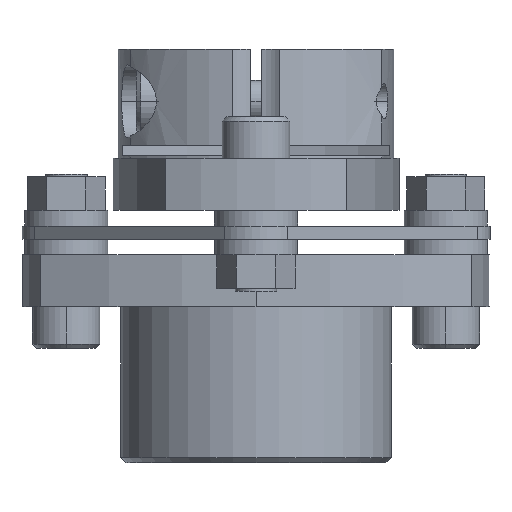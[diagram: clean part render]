
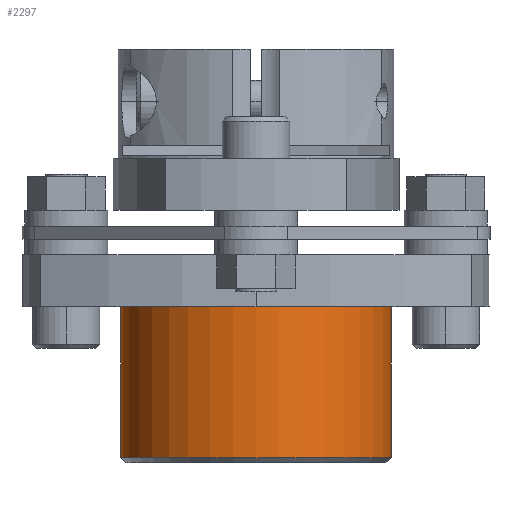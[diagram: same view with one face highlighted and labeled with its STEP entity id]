
A CAD part, front view. The second image highlights one B-rep face of the part: STEP entity #2297.
In plain terms, the highlighted cylindrical face has radius 26 mm (diameter 52 mm), a partial arc.
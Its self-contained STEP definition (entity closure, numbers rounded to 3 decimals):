
#2256=CARTESIAN_POINT('',(0.,0.,-24.25));
#2257=DIRECTION('',(0.0,0.0,1.0));
#2258=DIRECTION('',(-1.0,0.0,0.0));
#2259=AXIS2_PLACEMENT_3D('',#2256,#2257,#2258);
#2260=CYLINDRICAL_SURFACE('',#2259,26.0);
#2261=CARTESIAN_POINT('',(-26.,0.,-43.25));
#2262=VERTEX_POINT('',#2261);
#2263=CARTESIAN_POINT('',(-26.,0.,-14.25));
#2264=VERTEX_POINT('',#2263);
#2265=CARTESIAN_POINT('',(-26.,0.,-43.25));
#2266=DIRECTION('',(0.0,0.0,1.0));
#2267=VECTOR('',#2266,29.0);
#2268=LINE('',#2265,#2267);
#2269=EDGE_CURVE('',#2262,#2264,#2268,.T.);
#2270=ORIENTED_EDGE('',*,*,#2269,.F.);
#2271=CARTESIAN_POINT('',(26.,0.,-43.25));
#2272=VERTEX_POINT('',#2271);
#2273=CARTESIAN_POINT('',(0.,0.,-43.25));
#2274=DIRECTION('',(0.0,0.0,-1.0));
#2275=DIRECTION('',(1.0,0.0,0.0));
#2276=AXIS2_PLACEMENT_3D('',#2273,#2274,#2275);
#2277=CIRCLE('',#2276,26.0);
#2278=EDGE_CURVE('',#2272,#2262,#2277,.T.);
#2279=ORIENTED_EDGE('',*,*,#2278,.F.);
#2280=CARTESIAN_POINT('',(26.,0.,-14.25));
#2281=VERTEX_POINT('',#2280);
#2282=CARTESIAN_POINT('',(26.,0.,-14.25));
#2283=DIRECTION('',(0.0,0.0,-1.0));
#2284=VECTOR('',#2283,29.0);
#2285=LINE('',#2282,#2284);
#2286=EDGE_CURVE('',#2281,#2272,#2285,.T.);
#2287=ORIENTED_EDGE('',*,*,#2286,.F.);
#2288=CARTESIAN_POINT('',(0.,0.,-14.25));
#2289=DIRECTION('',(0.0,0.0,1.0));
#2290=DIRECTION('',(-1.0,0.0,0.0));
#2291=AXIS2_PLACEMENT_3D('',#2288,#2289,#2290);
#2292=CIRCLE('',#2291,26.0);
#2293=EDGE_CURVE('',#2264,#2281,#2292,.T.);
#2294=ORIENTED_EDGE('',*,*,#2293,.F.);
#2295=EDGE_LOOP('',(#2270,#2279,#2287,#2294));
#2296=FACE_OUTER_BOUND('',#2295,.T.);
#2297=ADVANCED_FACE('',(#2296),#2260,.T.);
